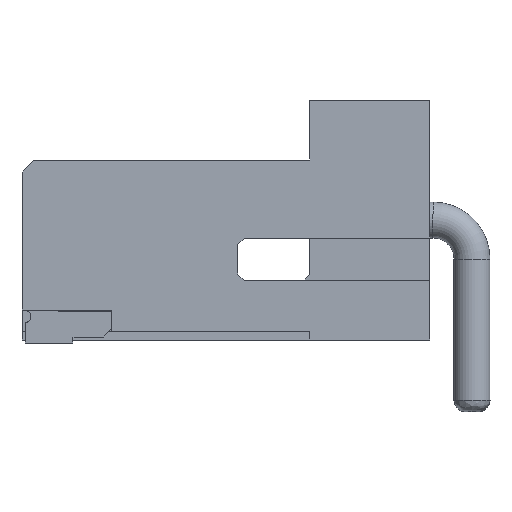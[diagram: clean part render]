
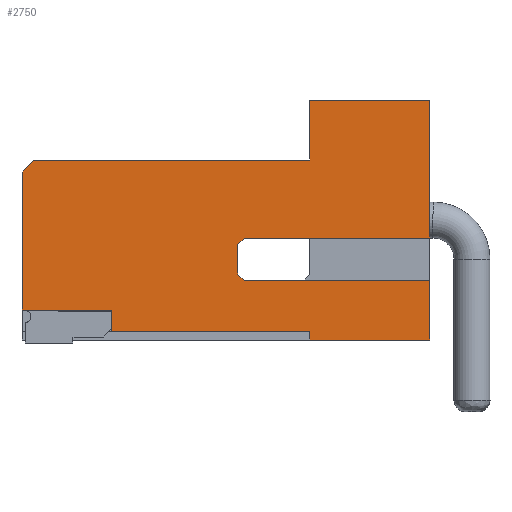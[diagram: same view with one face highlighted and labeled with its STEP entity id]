
A CAD part, left-side view. The second image highlights one B-rep face of the part: STEP entity #2750.
In plain terms, the highlighted planar face has unit normal (-1, 0, 0).
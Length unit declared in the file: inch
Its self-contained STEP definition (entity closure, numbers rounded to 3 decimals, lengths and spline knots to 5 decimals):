
#1=DIRECTION('',(0.,-0.707,0.707));
#2=VECTOR('',#1,0.28284);
#3=CARTESIAN_POINT('',(0.,7.8,-1.2));
#4=LINE('',#3,#2);
#5=DIRECTION('',(0.,0.,-1.));
#6=VECTOR('',#5,2.3);
#7=CARTESIAN_POINT('',(0.,1.,
0.));
#8=LINE('',#7,#6);
#9=DIRECTION('',(0.,1.,0.));
#10=VECTOR('',#9,3.1);
#11=CARTESIAN_POINT('',(0.,1.,-2.3));
#12=LINE('',#11,#10);
#13=DIRECTION('',(0.,0.707,-0.707));
#14=VECTOR('',#13,0.14142);
#15=CARTESIAN_POINT('',(0.,4.1,-2.3));
#16=LINE('',#15,#14);
#17=DIRECTION('',(0.,0.,-1.));
#18=VECTOR('',#17,0.5);
#19=CARTESIAN_POINT('',(0.,4.2,-2.4));
#20=LINE('',#19,#18);
#21=DIRECTION('',(0.,-0.707,-0.707));
#22=VECTOR('',#21,0.14142);
#23=CARTESIAN_POINT('',(0.,4.2,-2.9));
#24=LINE('',#23,#22);
#25=DIRECTION('',(0.,0.,-1.));
#26=VECTOR('',#25,1.);
#27=CARTESIAN_POINT('',(0.,1.,-3.));
#28=LINE('',#27,#26);
#29=DIRECTION('',(0.,1.,0.));
#30=VECTOR('',#29,2.);
#31=CARTESIAN_POINT('',(0.,1.,-4.));
#32=LINE('',#31,#30);
#33=DIRECTION('',(0.,1.,0.));
#34=VECTOR('',#33,3.3);
#35=CARTESIAN_POINT('',(0.,3.,-3.85));
#36=LINE('',#35,#34);
#37=DIRECTION('',(0.,1.,0.));
#38=VECTOR('',#37,1.5);
#39=CARTESIAN_POINT('',(0.,6.3,-3.5));
#40=LINE('',#39,#38);
#49=DIRECTION('',(0.,0.,-1.));
#50=VECTOR('',#49,2.3);
#51=CARTESIAN_POINT('',(0.,7.8,-1.2));
#52=LINE('',#51,#50);
#207=DIRECTION('',(0.,1.,0.));
#208=VECTOR('',#207,2.);
#209=CARTESIAN_POINT('',(0.,1.,
0.));
#210=LINE('',#209,#208);
#243=DIRECTION('',(0.,0.,-1.));
#244=VECTOR('',#243,1.);
#245=CARTESIAN_POINT('',(0.,3.,
0.));
#246=LINE('',#245,#244);
#1087=DIRECTION('',(0.,1.,0.));
#1088=VECTOR('',#1087,4.6);
#1089=CARTESIAN_POINT('',(0.,3.,
-1.));
#1090=LINE('',#1089,#1088);
#1155=DIRECTION('',(0.,1.,0.));
#1156=VECTOR('',#1155,3.1);
#1157=CARTESIAN_POINT('',(0.,1.,-3.));
#1158=LINE('',#1157,#1156);
#1805=DIRECTION('',(0.,0.,-1.));
#1806=VECTOR('',#1805,0.35);
#1807=CARTESIAN_POINT('',(0.,6.3,-3.5));
#1808=LINE('',#1807,#1806);
#1857=DIRECTION('',(0.,0.,-1.));
#1858=VECTOR('',#1857,0.15);
#1859=CARTESIAN_POINT('',(0.,3.,-3.85));
#1860=LINE('',#1859,#1858);
#2069=CARTESIAN_POINT('',(0.,7.8,-1.2));
#2070=CARTESIAN_POINT('',(0.,7.6,
-1.));
#2071=VERTEX_POINT('',#2069);
#2072=VERTEX_POINT('',#2070);
#2073=CARTESIAN_POINT('',(0.,3.,
-1.));
#2074=VERTEX_POINT('',#2073);
#2075=CARTESIAN_POINT('',(0.,3.,
0.));
#2076=VERTEX_POINT('',#2075);
#2077=CARTESIAN_POINT('',(0.,1.,
0.));
#2078=VERTEX_POINT('',#2077);
#2079=CARTESIAN_POINT('',(0.,1.,-2.3));
#2080=VERTEX_POINT('',#2079);
#2081=CARTESIAN_POINT('',(0.,4.1,-2.3));
#2082=VERTEX_POINT('',#2081);
#2083=CARTESIAN_POINT('',(0.,4.2,-2.4));
#2084=VERTEX_POINT('',#2083);
#2085=CARTESIAN_POINT('',(0.,4.2,-2.9));
#2086=VERTEX_POINT('',#2085);
#2087=CARTESIAN_POINT('',(0.,4.1,
-3.));
#2088=VERTEX_POINT('',#2087);
#2089=CARTESIAN_POINT('',(0.,1.,-3.));
#2090=VERTEX_POINT('',#2089);
#2091=CARTESIAN_POINT('',(0.,1.,-4.));
#2092=VERTEX_POINT('',#2091);
#2093=CARTESIAN_POINT('',(0.,3.,
-4.));
#2094=VERTEX_POINT('',#2093);
#2095=CARTESIAN_POINT('',(0.,3.,-3.85));
#2096=VERTEX_POINT('',#2095);
#2097=CARTESIAN_POINT('',(0.,6.3,-3.85));
#2098=VERTEX_POINT('',#2097);
#2099=CARTESIAN_POINT('',(0.,6.3,-3.5));
#2100=VERTEX_POINT('',#2099);
#2101=CARTESIAN_POINT('',(0.,7.8,
-3.5));
#2102=VERTEX_POINT('',#2101);
#2709=CARTESIAN_POINT('',(0.,4.4,-2.));
#2710=DIRECTION('',(1.,0.,0.));
#2711=DIRECTION('',(0.,0.,-1.));
#2712=AXIS2_PLACEMENT_3D('',#2709,#2710,#2711);
#2713=PLANE('',#2712);
#2715=ORIENTED_EDGE('',*,*,#2714,.T.);
#2717=ORIENTED_EDGE('',*,*,#2716,.F.);
#2719=ORIENTED_EDGE('',*,*,#2718,.F.);
#2721=ORIENTED_EDGE('',*,*,#2720,.F.);
#2723=ORIENTED_EDGE('',*,*,#2722,.T.);
#2725=ORIENTED_EDGE('',*,*,#2724,.T.);
#2727=ORIENTED_EDGE('',*,*,#2726,.T.);
#2729=ORIENTED_EDGE('',*,*,#2728,.T.);
#2731=ORIENTED_EDGE('',*,*,#2730,.T.);
#2733=ORIENTED_EDGE('',*,*,#2732,.F.);
#2735=ORIENTED_EDGE('',*,*,#2734,.T.);
#2737=ORIENTED_EDGE('',*,*,#2736,.T.);
#2739=ORIENTED_EDGE('',*,*,#2738,.F.);
#2741=ORIENTED_EDGE('',*,*,#2740,.T.);
#2743=ORIENTED_EDGE('',*,*,#2742,.F.);
#2745=ORIENTED_EDGE('',*,*,#2744,.T.);
#2747=ORIENTED_EDGE('',*,*,#2746,.F.);
#2748=EDGE_LOOP('',(#2715,#2717,#2719,#2721,#2723,#2725,#2727,#2729,#2731,#2733,
#2735,#2737,#2739,#2741,#2743,#2745,#2747));
#2749=FACE_OUTER_BOUND('',#2748,.F.);
#2714=EDGE_CURVE('',#2071,#2072,#4,.T.);
#2716=EDGE_CURVE('',#2074,#2072,#1090,.T.);
#2718=EDGE_CURVE('',#2076,#2074,#246,.T.);
#2720=EDGE_CURVE('',#2078,#2076,#210,.T.);
#2722=EDGE_CURVE('',#2078,#2080,#8,.T.);
#2724=EDGE_CURVE('',#2080,#2082,#12,.T.);
#2726=EDGE_CURVE('',#2082,#2084,#16,.T.);
#2728=EDGE_CURVE('',#2084,#2086,#20,.T.);
#2730=EDGE_CURVE('',#2086,#2088,#24,.T.);
#2732=EDGE_CURVE('',#2090,#2088,#1158,.T.);
#2734=EDGE_CURVE('',#2090,#2092,#28,.T.);
#2736=EDGE_CURVE('',#2092,#2094,#32,.T.);
#2738=EDGE_CURVE('',#2096,#2094,#1860,.T.);
#2740=EDGE_CURVE('',#2096,#2098,#36,.T.);
#2742=EDGE_CURVE('',#2100,#2098,#1808,.T.);
#2744=EDGE_CURVE('',#2100,#2102,#40,.T.);
#2746=EDGE_CURVE('',#2071,#2102,#52,.T.);
#2750=ADVANCED_FACE('',(#2749),#2713,.F.);
